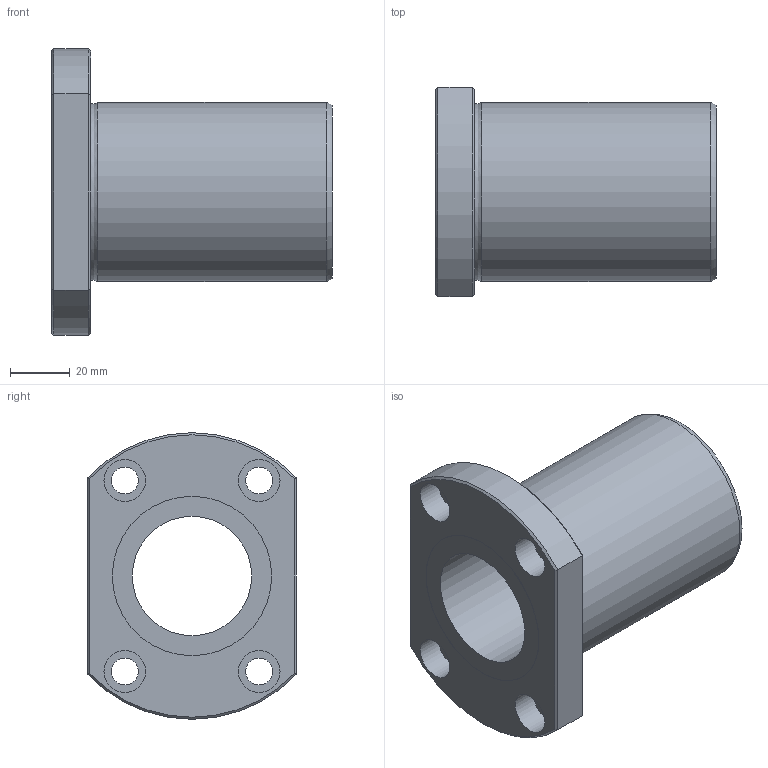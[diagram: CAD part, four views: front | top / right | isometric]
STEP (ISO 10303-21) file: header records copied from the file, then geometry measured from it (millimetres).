
FILE_DESCRIPTION((''),'2;1');
FILE_NAME('C:\Documents and Settings\土屋\My Documents\土屋移動用フォルダ\製品 (図面)\カタログ用3D\変換ファイル\OZAK_3D-CAD(STEP形式)\Part1.-Linear Bearings_ﾘﾆｱﾍﾞｱﾘﾝｸﾞ\09_Maintenance Free_ﾒｲﾝﾃﾅﾝｽﾌﾘｰ\L2017-09-21T13:15:31','2017-09-21T13:15:31',('y'),(''),'Autodesk Inventor 11','Autodesk Inventor 11','');
FILE_SCHEMA(('AUTOMOTIVE_DESIGN { 1 0 10303 214 1 1 1 1 }'));
Length unit declared in the file: millimetre
Products named in the file (1): LFT-MF
Bounding box: 94 x 70 x 96 mm (x, y, z)
Volume: 182625.6 mm3; surface area: 41659.5 mm2
Topology: 1 solids, 1 shells, 35 faces, 68 edges, 42 vertices
Faces by surface type: plane 15, cylinder 14, cone 4, torus 1, bspline 1
Full cylindrical faces by diameter (mm): 9 x4, 14 x4, 40 x1, 53.4 x2, 60 x1
Entity records: 935 total; most frequent: CARTESIAN_POINT 218, DIRECTION 150, ORIENTED_EDGE 108, AXIS2_PLACEMENT_3D 69, EDGE_LOOP 66, EDGE_CURVE 54, VERTEX_POINT 42, FACE_OUTER_BOUND 35
